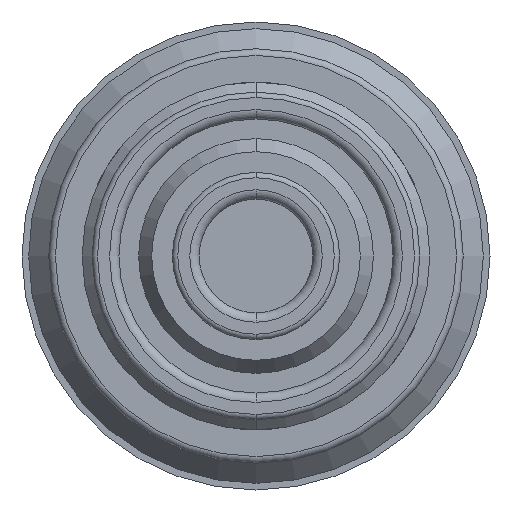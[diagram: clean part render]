
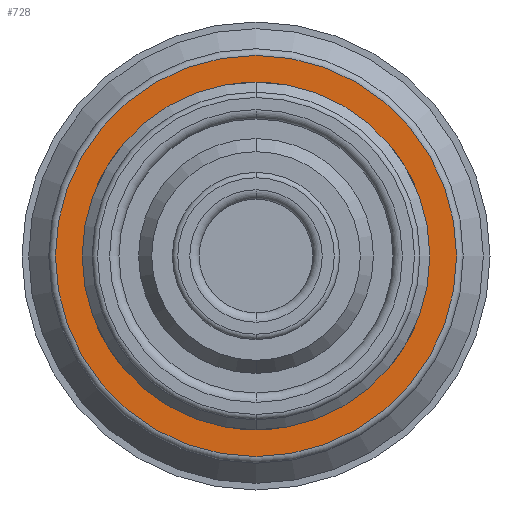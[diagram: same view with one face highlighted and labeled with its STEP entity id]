
A CAD part, front view. The second image highlights one B-rep face of the part: STEP entity #728.
In plain terms, the highlighted planar face has unit normal (0, -1, 0) as drawn and (0, 0, -1) by its records, which use the part's own axes.
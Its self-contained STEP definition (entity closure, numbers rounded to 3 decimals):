
#267=PLANE('',#2586);
#334=FACE_BOUND('',#1016,.T.);
#335=FACE_BOUND('',#1017,.T.);
#728=ADVANCED_FACE('',(#334,#335),#267,.T.);
#1016=EDGE_LOOP('',(#1526));
#1017=EDGE_LOOP('',(#1527));
#1526=ORIENTED_EDGE('',*,*,#2102,.T.);
#1527=ORIENTED_EDGE('',*,*,#2100,.F.);
#1826=VERTEX_POINT('',#4025);
#1828=VERTEX_POINT('',#4030);
#2100=EDGE_CURVE('',#1826,#1826,#2307,.T.);
#2102=EDGE_CURVE('',#1828,#1828,#2309,.T.);
#2307=CIRCLE('',#2582,3.);
#2309=CIRCLE('',#2585,15.);
#2582=AXIS2_PLACEMENT_3D('',#4024,#3193,#3194);
#2585=AXIS2_PLACEMENT_3D('',#4029,#3199,#3200);
#2586=AXIS2_PLACEMENT_3D('',#4031,#3201,#3202);
#3193=DIRECTION('',(0.,0.,-1.));
#3194=DIRECTION('',(-1.,0.,0.));
#3199=DIRECTION('',(0.,0.,-1.));
#3200=DIRECTION('',(-1.,0.,0.));
#3201=DIRECTION('',(0.,0.,-1.));
#3202=DIRECTION('',(1.,0.,0.));
#4024=CARTESIAN_POINT('',(0.,0.,-1.7));
#4025=CARTESIAN_POINT('',(-3.,0.,-1.7));
#4029=CARTESIAN_POINT('',(0.,0.,-1.7));
#4030=CARTESIAN_POINT('',(-15.,0.,-1.7));
#4031=CARTESIAN_POINT('',(5.15,0.,-1.7));
